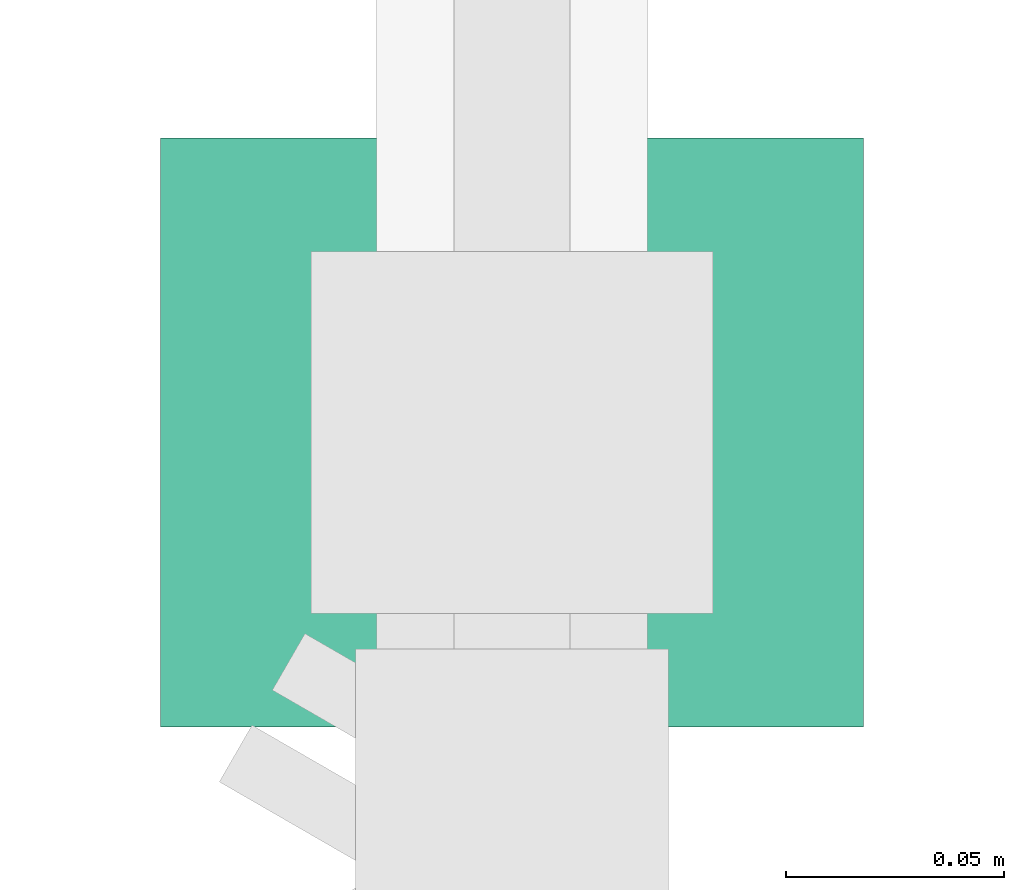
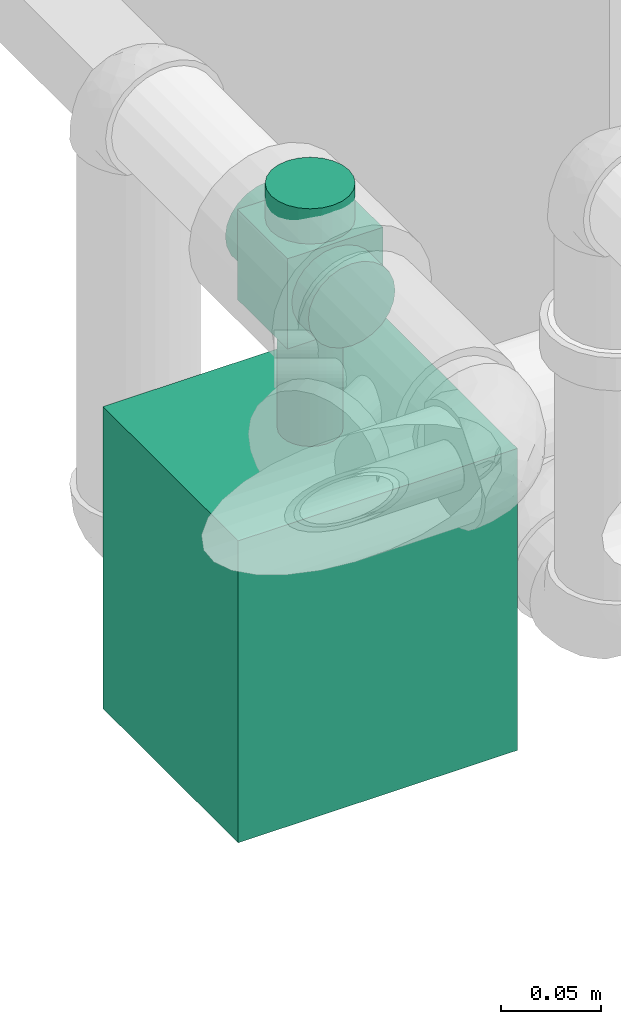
# One storey, part 11 of 13: 1 flow controller.
"""IFC2X3 building model written with IfcOpenShell, lengths in millimetres."""

from ifc_helpers import new_model, entity, si_unit, converted_unit, derived_unit, direction, frame, origin_with_axes, place, context, subcontext, project, spatial, open_shell, surface_model, source, transform, mapped, type_object, element, save


model = new_model("IFC2X3")

# Units and contexts
model_context = context("Model", 3, precision=0.01, world=frame((0.0, 4.29681676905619e-09, 0.0)), true_north=direction((4.01073788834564e-13, 1.0)))
plan_context = context("Plan", 3, precision=0.01, world=frame((0.0, 4.29681676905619e-09, 0.0)), true_north=direction((4.01073788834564e-13, 1.0)))
body_context = subcontext(model_context, "Body", "Model", "MODEL_VIEW")
ifc_project = project(units=[converted_unit("PLANEANGLEUNIT", "DEGREE", entity("IfcPositiveLengthMeasure", 0.0174532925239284), si_unit("PLANEANGLEUNIT", "RADIAN"), dimensions=[0, 0, 0, 0, 0, 0, 0]), si_unit("AREAUNIT", "SQUARE_METRE"), si_unit("LENGTHUNIT", "METRE", prefix="MILLI"), si_unit("MASSUNIT", "GRAM", prefix="KILO"), si_unit("POWERUNIT", "WATT"), si_unit("PRESSUREUNIT", "PASCAL"), si_unit("FORCEUNIT", "NEWTON", prefix="KILO"), si_unit("ELECTRICVOLTAGEUNIT", "VOLT"), si_unit("ELECTRICCURRENTUNIT", "AMPERE"), si_unit("THERMODYNAMICTEMPERATUREUNIT", "DEGREE_CELSIUS"), si_unit("TIMEUNIT", "SECOND"), si_unit("VOLUMEUNIT", "CUBIC_METRE"), derived_unit("LINEARVELOCITYUNIT", [(si_unit("LENGTHUNIT", "METRE"), 1), (si_unit("TIMEUNIT", "SECOND"), -1)]), derived_unit("VOLUMETRICFLOWRATEUNIT", [(si_unit("VOLUMEUNIT", "CUBIC_METRE"), 1), (si_unit("TIMEUNIT", "SECOND"), -1)]), derived_unit("THERMALTRANSMITTANCEUNIT", [(si_unit("POWERUNIT", "WATT"), 1), (si_unit("THERMODYNAMICTEMPERATUREUNIT", "KELVIN"), -1), (si_unit("AREAUNIT", "SQUARE_METRE"), -1)]), derived_unit("SOUNDPRESSUREUNIT", [(si_unit("PRESSUREUNIT", "PASCAL"), 1)])], contexts=[model_context, plan_context])

# Site, building, storey
site_placement = place(None, frame((0.0, -4.29681676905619e-09, 0.0), z_axis=(0.0, 0.0, 1.0), x_axis=(1.0, 0.0, 0.0)))
site = spatial("IfcSite", under=ifc_project, at=site_placement, Name="ENGM", CompositionType="ELEMENT")
building_placement = place(site_placement, frame((0.0, 4.29681676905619e-09, 0.0), z_axis=(0.0, 0.0, 1.0), x_axis=(1.0, 0.0, 0.0)))
building = spatial("IfcBuilding", under=site, at=building_placement, Name="TI", CompositionType="ELEMENT")
storey_placement = place(building_placement, frame((0.0, 0.0, 210900.0), z_axis=(0.0, 0.0, 1.0), x_axis=(1.0, 0.0, 0.0)))
storey = spatial("IfcBuildingStorey", under=building, at=storey_placement, Name="Nivå F", CompositionType="ELEMENT", Elevation=210900.0)

# Flow controller
valve_type = type_object("IfcValveType", Name="V5011R1059+ML6425A", PredefinedType="NOTDEFINED")
shared_shape = source(origin_with_axes(), body_context, "Body", "SurfaceModel", [
    surface_model("IfcShellBasedSurfaceModel", [(67.5, -80.5, 284.0), (67.5, 80.5, 284.0), (-67.5, 80.5, 284.0), (-67.5, -80.5, 284.0), (67.5, 80.5, 100.0), (-67.5, 80.5, 100.0), (-67.5, -80.5, 100.0), (67.5, -80.5, 100.0), (-14.28942, 8.25, 100.0), (-15.93778, 4.27051, 100.0), (-11.66726, 11.66726, 100.0), (-16.5, 0.0, 100.0), (0.0, 16.5, 100.0), (-4.27051, 15.93778, 100.0), (-8.25, 14.28942, 100.0), (-15.93778, -4.27051, 100.0), (-14.28942, -8.25, 100.0), (-11.66726, -11.66726, 100.0), (-8.25, -14.28942, 100.0), (-4.27051, -15.93778, 100.0), (0.0, -16.5, 100.0), (8.25, 14.28942, 100.0), (4.27051, 15.93778, 100.0), (11.66726, 11.66726, 100.0), (14.28942, 8.25, 100.0), (15.93778, 4.27051, 100.0), (16.5, 0.0, 100.0), (4.27051, -15.93778, 100.0), (8.25, -14.28942, 100.0), (14.28942, -8.25, 100.0), (15.93778, -4.27051, 100.0), (11.66726, -11.66726, 100.0), (-15.93778, -4.27051, 27.5), (-14.28942, -8.25, 27.5), (-16.5, 0.0, 27.5), (-8.25, -14.28942, 27.5), (-4.27051, -15.93778, 27.5), (-11.66726, -11.66726, 27.5), (0.0, -16.5, 27.5), (8.25, -14.28942, 27.5), (11.66726, -11.66726, 27.5), (4.27051, -15.93778, 27.5), (15.93778, -4.27051, 27.5), (16.5, 0.0, 27.5), (14.28942, -8.25, 27.5), (15.93778, 4.27051, 27.5), (14.28942, 8.25, 27.5), (8.25, 14.28942, 27.5), (11.66726, 11.66726, 27.5), (4.27051, 15.93778, 27.5), (0.0, 16.5, 27.5), (-8.25, 14.28942, 27.5), (-11.66726, 11.66726, 27.5), (-4.27051, 15.93778, 27.5), (-15.93778, 4.27051, 27.5), (-14.28942, 8.25, 27.5), (24.9, 27.5, 27.5), (-24.9, 27.5, 27.5), (24.9, -27.5, 27.5), (-24.9, -27.5, 27.5), (-24.9, 27.5, -27.5), (-19.48557, 11.25, -27.5), (-21.73333, 5.82343, -27.5), (-15.9099, 15.9099, -27.5), (-22.5, 0.0, -27.5), (0.0, 22.5, -27.5), (-5.82343, 21.73333, -27.5), (-11.25, 19.48557, -27.5), (24.9, 27.5, -27.5), (-24.9, -27.5, -27.5), (-21.73333, -5.82343, -27.5), (-19.48557, -11.25, -27.5), (-15.9099, -15.9099, -27.5), (-11.25, -19.48557, -27.5), (-5.82343, -21.73333, -27.5), (0.0, -22.5, -27.5), (11.25, 19.48557, -27.5), (5.82343, 21.73333, -27.5), (15.9099, 15.9099, -27.5), (19.48557, 11.25, -27.5), (21.73333, 5.82343, -27.5), (22.5, 0.0, -27.5), (24.9, -27.5, -27.5), (5.82343, -21.73333, -27.5), (11.25, -19.48557, -27.5), (19.48557, -11.25, -27.5), (21.73333, -5.82343, -27.5), (15.9099, -15.9099, -27.5), (-24.9, 12.5, 21.65064), (-24.9, 6.47048, 24.14815), (-24.9, 17.67767, 17.67767), (-24.9, 0.0, 25.0), (-24.9, 25.0, 0.0), (-24.9, 24.14815, 6.47048), (-24.9, 21.65064, 12.5), (-24.9, -6.47048, 24.14815), (-24.9, -12.5, 21.65064), (-24.9, -17.67767, 17.67767), (-24.9, -21.65064, 12.5), (-24.9, -24.14815, 6.47048), (-24.9, -25.0, 0.0), (-24.9, 21.65064, -12.5), (-24.9, 24.14815, -6.47048), (-24.9, 17.67767, -17.67767), (-24.9, 12.5, -21.65064), (-24.9, 6.47048, -24.14815), (-24.9, 0.0, -25.0), (-24.9, -24.14815, -6.47048), (-24.9, -21.65064, -12.5), (-24.9, -12.5, -21.65064), (-24.9, -6.47048, -24.14815), (-24.9, -17.67767, -17.67767), (24.9, -12.5, 21.65064), (24.9, -6.47048, 24.14815), (24.9, -17.67767, 17.67767), (24.9, 0.0, 25.0), (24.9, -25.0, 0.0), (24.9, -24.14815, 6.47048), (24.9, -21.65064, 12.5), (24.9, 6.47048, 24.14815), (24.9, 12.5, 21.65064), (24.9, 17.67767, 17.67767), (24.9, 21.65064, 12.5), (24.9, 24.14815, 6.47048), (24.9, 25.0, 0.0), (24.9, -21.65064, -12.5), (24.9, -24.14815, -6.47048), (24.9, -17.67767, -17.67767), (24.9, -12.5, -21.65064), (24.9, -6.47048, -24.14815), (24.9, 0.0, -25.0), (24.9, 24.14815, -6.47048), (24.9, 21.65064, -12.5), (24.9, 12.5, -21.65064), (24.9, 6.47048, -24.14815), (24.9, 17.67767, -17.67767), (-41.5, -24.14815, 6.47048), (-41.5, -6.47048, -24.14815), (-41.5, -25.0, 0.0), (-41.5, -17.67767, 17.67767), (-41.5, -21.65064, 12.5), (-41.5, -12.5, 21.65064), (-41.5, -6.47048, 24.14815), (-41.5, 6.47048, -24.14815), (-41.5, -21.65064, -12.5), (-41.5, -12.5, -21.65064), (-41.5, -17.67767, -17.67767), (-41.5, -24.14815, -6.47048), (-41.5, 0.0, -25.0), (-41.5, 21.65064, -12.5), (-41.5, 6.47048, 24.14815), (-41.5, 24.14815, -6.47048), (-41.5, 24.14815, 6.47048), (-41.5, 12.5, 21.65064), (-41.5, 17.67767, 17.67767), (-41.5, 21.65064, 12.5), (-41.5, 17.67767, -17.67767), (-41.5, 12.5, -21.65064), (-41.5, 25.0, 0.0), (-41.5, 0.0, 25.0), (41.5, 24.14815, 6.47048), (41.5, 21.65064, 12.5), (41.5, 17.67767, 17.67767), (41.5, 0.0, 25.0), (41.5, 6.47048, 24.14815), (41.5, 12.5, 21.65064), (41.5, 6.47048, -24.14815), (41.5, 21.65064, -12.5), (41.5, 24.14815, -6.47048), (41.5, 25.0, 0.0), (41.5, 17.67767, -17.67767), (41.5, 12.5, -21.65064), (41.5, -6.47048, 24.14815), (41.5, -12.5, 21.65064), (41.5, -17.67767, 17.67767), (41.5, -6.47048, -24.14815), (41.5, -24.14815, 6.47048), (41.5, -25.0, 0.0), (41.5, -21.65064, 12.5), (41.5, -24.14815, -6.47048), (41.5, -12.5, -21.65064), (41.5, 0.0, -25.0), (41.5, -21.65064, -12.5), (41.5, -17.67767, -17.67767), (0.0, 22.5, -49.0), (5.82343, 21.73333, -49.0), (11.25, 19.48557, -49.0), (15.9099, 15.9099, -49.0), (19.48557, 11.25, -49.0), (21.73333, 5.82343, -49.0), (-15.9099, 15.9099, -49.0), (-5.82343, 21.73333, -49.0), (-11.25, 19.48557, -49.0), (-21.73333, 5.82343, -49.0), (-19.48557, 11.25, -49.0), (-15.9099, -15.9099, -49.0), (-22.5, 0.0, -49.0), (21.73333, -5.82343, -49.0), (15.9099, -15.9099, -49.0), (19.48557, -11.25, -49.0), (11.25, -19.48557, -49.0), (-5.82343, -21.73333, -49.0), (5.82343, -21.73333, -49.0), (0.0, -22.5, -49.0), (-19.48557, -11.25, -49.0), (-21.73333, -5.82343, -49.0), (-11.25, -19.48557, -49.0), (22.5, 0.0, -49.0)], [open_shell([[[0, 1, 2]], [[2, 3, 0]], [[2, 1, 4]], [[4, 5, 2]], [[3, 2, 6]], [[5, 6, 2]], [[0, 3, 6]], [[6, 7, 0]], [[1, 0, 4]], [[7, 4, 0]], [[5, 8, 9]], [[8, 5, 10]], [[5, 9, 11]], [[12, 13, 5]], [[14, 10, 5]], [[13, 14, 5]], [[5, 4, 12]], [[6, 11, 15]], [[11, 6, 5]], [[6, 15, 16]], [[16, 17, 6]], [[18, 19, 6]], [[17, 18, 6]], [[6, 19, 20]], [[21, 22, 4]], [[23, 21, 4]], [[24, 4, 25]], [[4, 24, 23]], [[26, 25, 4]], [[4, 7, 26]], [[22, 12, 4]], [[27, 28, 7]], [[20, 27, 7]], [[29, 30, 7]], [[31, 7, 28]], [[7, 31, 29]], [[30, 26, 7]], [[20, 7, 6]], [[32, 33, 15]], [[34, 32, 11]], [[35, 36, 18]], [[37, 35, 17]], [[33, 37, 16]], [[33, 16, 15]], [[15, 11, 32]], [[35, 18, 17]], [[17, 16, 37]], [[18, 36, 19]], [[38, 20, 19]], [[38, 19, 36]], [[39, 40, 28]], [[41, 39, 27]], [[42, 43, 30]], [[44, 42, 29]], [[40, 44, 31]], [[41, 27, 20]], [[39, 28, 27]], [[40, 31, 28]], [[44, 29, 31]], [[30, 29, 42]], [[43, 26, 30]], [[41, 20, 38]], [[24, 45, 46]], [[25, 43, 45]], [[47, 23, 48]], [[24, 46, 48]], [[21, 47, 49]], [[26, 43, 25]], [[25, 45, 24]], [[47, 21, 23]], [[23, 24, 48]], [[21, 49, 22]], [[50, 12, 22]], [[50, 22, 49]], [[51, 52, 14]], [[53, 51, 13]], [[54, 34, 9]], [[55, 54, 8]], [[52, 55, 10]], [[53, 13, 12]], [[51, 14, 13]], [[52, 10, 14]], [[55, 8, 10]], [[9, 8, 54]], [[34, 11, 9]], [[53, 12, 50]], [[56, 46, 45]], [[46, 56, 48]], [[56, 45, 43]], [[50, 49, 56]], [[47, 48, 56]], [[49, 47, 56]], [[56, 57, 50]], [[58, 43, 42]], [[43, 58, 56]], [[58, 42, 44]], [[44, 40, 58]], [[39, 41, 58]], [[40, 39, 58]], [[58, 41, 38]], [[51, 53, 57]], [[52, 51, 57]], [[55, 57, 54]], [[57, 55, 52]], [[34, 54, 57]], [[57, 59, 34]], [[53, 50, 57]], [[36, 35, 59]], [[38, 36, 59]], [[33, 32, 59]], [[37, 59, 35]], [[59, 37, 33]], [[32, 34, 59]], [[38, 59, 58]], [[60, 61, 62]], [[61, 60, 63]], [[60, 62, 64]], [[65, 66, 60]], [[67, 63, 60]], [[66, 67, 60]], [[60, 68, 65]], [[69, 64, 70]], [[64, 69, 60]], [[69, 70, 71]], [[71, 72, 69]], [[73, 74, 69]], [[72, 73, 69]], [[69, 74, 75]], [[76, 77, 68]], [[78, 76, 68]], [[79, 68, 80]], [[68, 79, 78]], [[81, 80, 68]], [[68, 82, 81]], [[77, 65, 68]], [[83, 84, 82]], [[75, 83, 82]], [[85, 86, 82]], [[87, 82, 84]], [[82, 87, 85]], [[86, 81, 82]], [[75, 82, 69]], [[57, 56, 68]], [[68, 60, 57]], [[57, 88, 89]], [[88, 57, 90]], [[57, 89, 91]], [[92, 93, 57]], [[94, 90, 57]], [[93, 94, 57]], [[57, 60, 92]], [[59, 91, 95]], [[91, 59, 57]], [[59, 95, 96]], [[96, 97, 59]], [[98, 99, 59]], [[97, 98, 59]], [[59, 99, 100]], [[101, 102, 60]], [[103, 101, 60]], [[104, 60, 105]], [[60, 104, 103]], [[106, 105, 60]], [[60, 69, 106]], [[102, 92, 60]], [[107, 108, 69]], [[100, 107, 69]], [[109, 110, 69]], [[111, 69, 108]], [[69, 111, 109]], [[110, 106, 69]], [[100, 69, 59]], [[58, 59, 69]], [[69, 82, 58]], [[58, 112, 113]], [[112, 58, 114]], [[58, 113, 115]], [[116, 117, 58]], [[118, 114, 58]], [[117, 118, 58]], [[58, 82, 116]], [[56, 115, 119]], [[115, 56, 58]], [[56, 119, 120]], [[120, 121, 56]], [[122, 123, 56]], [[121, 122, 56]], [[56, 123, 124]], [[125, 126, 82]], [[127, 125, 82]], [[128, 82, 129]], [[82, 128, 127]], [[130, 129, 82]], [[82, 68, 130]], [[126, 116, 82]], [[131, 132, 68]], [[124, 131, 68]], [[133, 134, 68]], [[135, 68, 132]], [[68, 135, 133]], [[134, 130, 68]], [[124, 68, 56]], [[136, 137, 138]], [[139, 136, 140]], [[139, 141, 142]], [[136, 139, 137]], [[139, 143, 137]], [[144, 145, 146]], [[144, 147, 138]], [[145, 144, 138]], [[138, 137, 145]], [[137, 143, 148]], [[149, 139, 142]], [[150, 151, 142]], [[152, 150, 153]], [[154, 155, 152]], [[154, 152, 153]], [[151, 150, 152]], [[143, 156, 157]], [[156, 143, 149]], [[149, 143, 139]], [[151, 149, 142]], [[152, 158, 151]], [[150, 142, 159]], [[143, 105, 148]], [[157, 104, 143]], [[101, 156, 149]], [[157, 156, 103]], [[102, 149, 151]], [[143, 104, 105]], [[105, 106, 148]], [[102, 101, 149]], [[103, 156, 101]], [[103, 104, 157]], [[92, 102, 151]], [[151, 158, 92]], [[152, 93, 158]], [[155, 94, 152]], [[88, 154, 153]], [[155, 154, 90]], [[89, 153, 150]], [[155, 90, 94]], [[94, 93, 152]], [[91, 89, 150]], [[88, 153, 89]], [[88, 90, 154]], [[159, 91, 150]], [[158, 93, 92]], [[142, 95, 159]], [[141, 96, 142]], [[98, 139, 140]], [[141, 139, 97]], [[99, 140, 136]], [[142, 96, 95]], [[95, 91, 159]], [[99, 98, 140]], [[97, 139, 98]], [[97, 96, 141]], [[100, 99, 136]], [[136, 138, 100]], [[147, 107, 138]], [[144, 108, 147]], [[144, 146, 111]], [[146, 145, 109]], [[144, 111, 108]], [[108, 107, 147]], [[110, 137, 106]], [[137, 110, 109]], [[137, 148, 106]], [[109, 111, 146]], [[109, 145, 137]], [[138, 107, 100]], [[160, 161, 162]], [[160, 162, 163]], [[164, 163, 162]], [[164, 162, 165]], [[160, 163, 166]], [[160, 167, 168]], [[168, 169, 160]], [[170, 166, 171]], [[166, 170, 167]], [[166, 167, 160]], [[163, 172, 166]], [[172, 173, 174]], [[175, 172, 174]], [[176, 177, 174]], [[176, 174, 178]], [[179, 174, 177]], [[174, 180, 175]], [[181, 166, 175]], [[180, 182, 183]], [[182, 180, 179]], [[179, 180, 174]], [[175, 166, 172]], [[134, 166, 130]], [[133, 171, 134]], [[167, 135, 132]], [[133, 135, 170]], [[168, 132, 131]], [[134, 171, 166]], [[166, 181, 130]], [[168, 167, 132]], [[170, 135, 167]], [[170, 171, 133]], [[169, 168, 131]], [[131, 124, 169]], [[123, 160, 124]], [[122, 161, 123]], [[165, 121, 120]], [[122, 121, 162]], [[164, 120, 119]], [[122, 162, 161]], [[161, 160, 123]], [[163, 164, 119]], [[165, 120, 164]], [[165, 162, 121]], [[115, 163, 119]], [[124, 160, 169]], [[113, 172, 115]], [[112, 173, 113]], [[178, 114, 118]], [[112, 114, 174]], [[176, 118, 117]], [[113, 173, 172]], [[172, 163, 115]], [[176, 178, 118]], [[174, 114, 178]], [[174, 173, 112]], [[177, 176, 117]], [[117, 116, 177]], [[126, 179, 116]], [[125, 182, 126]], [[125, 127, 183]], [[127, 128, 180]], [[125, 183, 182]], [[182, 179, 126]], [[175, 129, 181]], [[129, 175, 180]], [[129, 130, 181]], [[180, 183, 127]], [[180, 128, 129]], [[116, 179, 177]], [[184, 185, 186]], [[184, 186, 187]], [[187, 188, 189]], [[187, 189, 184]], [[184, 189, 190]], [[191, 190, 192]], [[191, 184, 190]], [[190, 193, 194]], [[190, 195, 193]], [[193, 195, 196]], [[195, 190, 189]], [[189, 197, 195]], [[198, 197, 199]], [[197, 200, 201]], [[200, 197, 198]], [[202, 203, 200]], [[196, 204, 205]], [[195, 204, 196]], [[195, 201, 206]], [[195, 197, 201]], [[203, 201, 200]], [[197, 189, 207]], [[205, 70, 196]], [[204, 71, 205]], [[73, 195, 206]], [[204, 195, 72]], [[74, 206, 201]], [[205, 71, 70]], [[70, 64, 196]], [[74, 73, 206]], [[72, 195, 73]], [[72, 71, 204]], [[75, 74, 201]], [[201, 203, 75]], [[202, 83, 203]], [[200, 84, 202]], [[85, 198, 199]], [[200, 198, 87]], [[86, 199, 197]], [[200, 87, 84]], [[84, 83, 202]], [[81, 86, 197]], [[85, 199, 86]], [[85, 87, 198]], [[207, 81, 197]], [[203, 83, 75]], [[189, 80, 207]], [[188, 79, 189]], [[76, 187, 186]], [[188, 187, 78]], [[77, 186, 185]], [[189, 79, 80]], [[80, 81, 207]], [[77, 76, 186]], [[78, 187, 76]], [[78, 79, 188]], [[65, 77, 185]], [[185, 184, 65]], [[184, 191, 66]], [[61, 194, 193]], [[194, 63, 190]], [[62, 193, 196]], [[66, 192, 67]], [[192, 66, 191]], [[67, 192, 63]], [[192, 190, 63]], [[194, 61, 63]], [[62, 61, 193]], [[196, 64, 62]], [[184, 66, 65]]])]),
])
flow_controller_placement = place(storey_placement, frame((610086.18538, 691429.10738, 2740.0), z_axis=(0.0, 0.0, -1.0), x_axis=(0.0, -1.0, 0.0)))
element("IfcFlowController", 1, at=flow_controller_placement, inside=storey, type_object=valve_type, Name="V5011R1059+ML6425A", context=body_context, shape_type="MappedRepresentation", body=[
    mapped(shared_shape, transform((0.0, 0.0, 0.0), scale=1.0)),
])

save(model, "model.ifc")
